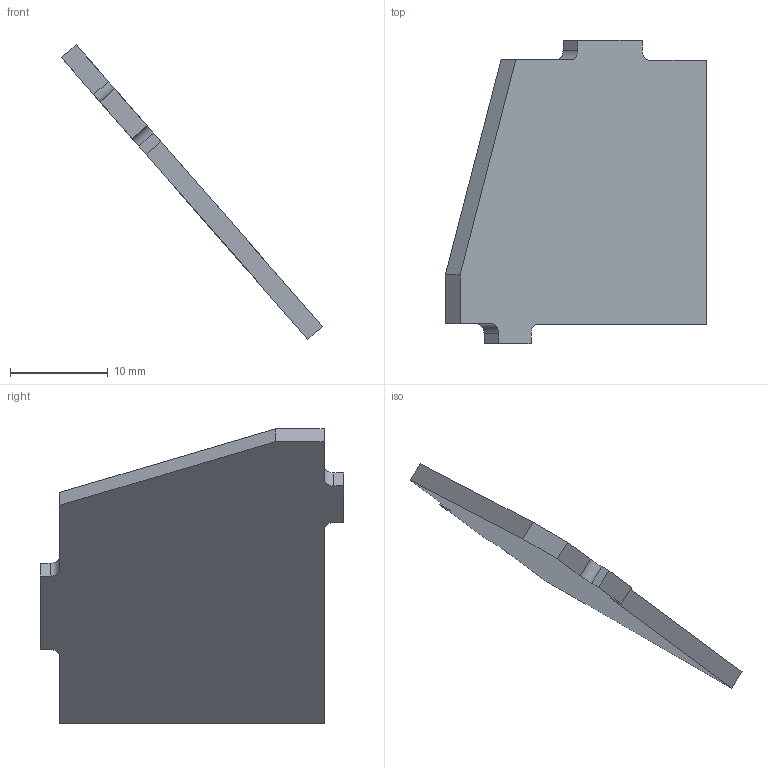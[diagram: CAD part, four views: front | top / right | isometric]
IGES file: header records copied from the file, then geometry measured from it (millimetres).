
Start section: START RECORD GO HERE.
Global section: file name: FR_11001_9 (Frame Throttle).igs; native system: IBM CATIA IGES - CATIA Version 5 Release 19 ; preprocessor: CATIA Version 5 Release 19 ; author: jacqu; organization: ASUS-TUF-JACQUE; date: 20200226.091535; units: millimetre
Bounding box: 26.69 x 31 x 30.1 mm (x, y, z)
Surface area: 2196.5 mm2 (no closed solid volume)
Topology: 0 solids, 0 shells, 20 faces, 108 edges, 108 vertices
Faces by surface type: plane 16, revolution 4
